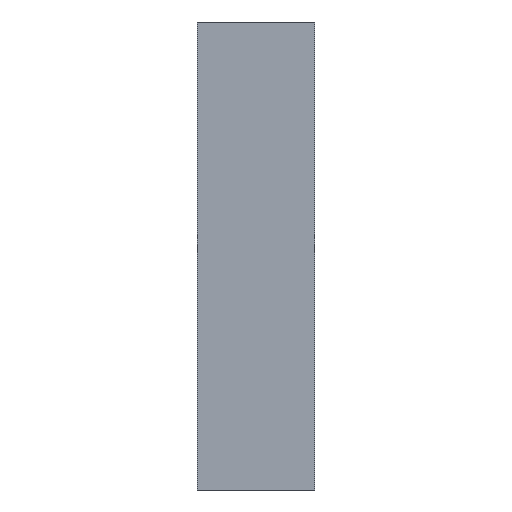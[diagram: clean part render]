
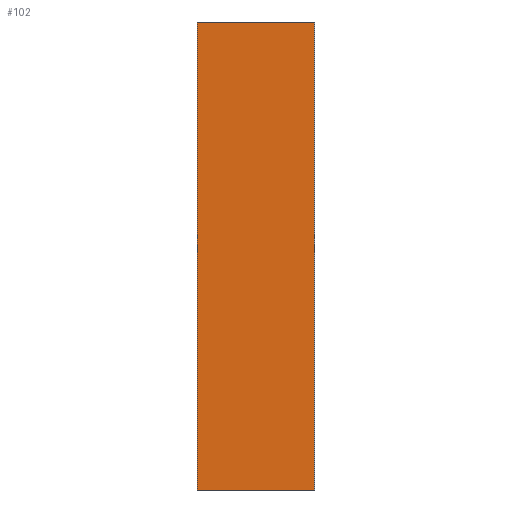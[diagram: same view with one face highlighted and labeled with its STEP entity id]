
A CAD part, left-side view. The second image highlights one B-rep face of the part: STEP entity #102.
In plain terms, the highlighted planar face has unit normal (-1, 0, 0).
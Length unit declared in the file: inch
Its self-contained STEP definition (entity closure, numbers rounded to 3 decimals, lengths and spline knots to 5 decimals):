
#16=FACE_OUTER_BOUND('',#22,.T.);
#22=EDGE_LOOP('',(#75,#76,#77,#78));
#30=LINE('',#150,#42);
#31=LINE('',#153,#43);
#32=LINE('',#155,#44);
#33=LINE('',#156,#45);
#42=VECTOR('',#122,0.3937);
#43=VECTOR('',#125,0.3937);
#44=VECTOR('',#126,0.3937);
#45=VECTOR('',#127,0.3937);
#51=VERTEX_POINT('',#143);
#54=VERTEX_POINT('',#148);
#55=VERTEX_POINT('',#152);
#56=VERTEX_POINT('',#154);
#62=EDGE_CURVE('',#51,#54,#30,.T.);
#63=EDGE_CURVE('',#55,#51,#31,.T.);
#64=EDGE_CURVE('',#56,#54,#32,.T.);
#65=EDGE_CURVE('',#55,#56,#33,.T.);
#75=ORIENTED_EDGE('',*,*,#63,.T.);
#76=ORIENTED_EDGE('',*,*,#62,.T.);
#77=ORIENTED_EDGE('',*,*,#64,.F.);
#78=ORIENTED_EDGE('',*,*,#65,.F.);
#96=PLANE('',#110);
#102=ADVANCED_FACE('',(#16),#96,.T.);
#110=AXIS2_PLACEMENT_3D('',#151,#123,#124);
#122=DIRECTION('',(0.,1.,0.));
#123=DIRECTION('center_axis',(-1.,0.,0.));
#124=DIRECTION('ref_axis',(0.,0.,1.));
#125=DIRECTION('',(0.,0.,1.));
#126=DIRECTION('',(0.,0.,1.));
#127=DIRECTION('',(0.,1.,0.));
#143=CARTESIAN_POINT('',(-1.471,0.,0.2));
#148=CARTESIAN_POINT('',(-1.471,0.1,0.2));
#150=CARTESIAN_POINT('',(-1.471,0.,0.2));
#151=CARTESIAN_POINT('Origin',(-1.471,0.,-0.2));
#152=CARTESIAN_POINT('',(-1.471,0.,-0.2));
#153=CARTESIAN_POINT('',(-1.471,0.,-0.2));
#154=CARTESIAN_POINT('',(-1.471,0.1,-0.2));
#155=CARTESIAN_POINT('',(-1.471,0.1,-0.2));
#156=CARTESIAN_POINT('',(-1.471,0.,-0.2));
